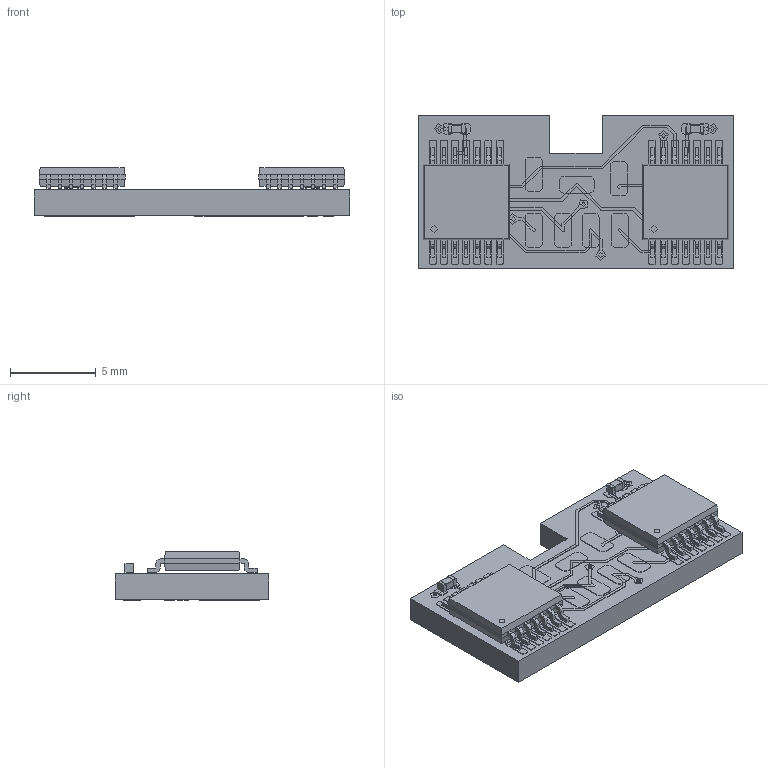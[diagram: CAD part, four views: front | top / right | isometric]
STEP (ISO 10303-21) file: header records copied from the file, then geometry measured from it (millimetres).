
FILE_DESCRIPTION(('KiCad electronic assembly'),'2;1');
FILE_NAME('board2.step','2026-06-25T11:59:37',('Pcbnew'),('Kicad'), 'Open CASCADE STEP processor 7.9','KiCad to STEP converter','Unknown' );
FILE_SCHEMA(('AUTOMOTIVE_DESIGN { 1 0 10303 214 1 1 1 1 }'));
Length unit declared in the file: millimetre
Products named in the file (15): board2 1; C_0402_1005Metric; AS5047P-ATSM; Array; Body001 (Mirror #1); Array001; Body001; Body; Body003; XY-plane; X-axis; Encoder_BoardV2_copper; Encoder_BoardV2_pad; Encoder_BoardV2_via; Encoder_BoardV2_PCB
Assembly tree (50 placements, depth 4):
  board2 1
    C_0402_1005Metric  x2
    AS5047P-ATSM  x2
      Array
        Body001 (Mirror #1)  x7
      Array001
        Body001  x7
      Body
      Body003
      XY-plane
      X-axis
    Encoder_BoardV2_copper
    Encoder_BoardV2_pad
    Encoder_BoardV2_via
    Encoder_BoardV2_PCB
Bounding box: 18.4 x 8.95 x 2.83 mm (x, y, z)
Volume: 290 mm3; surface area: 726.9 mm2
Topology: 114 solids, 114 shells, 1205 faces, 2921 edges, 1926 vertices
Faces by surface type: plane 860, cylinder 345
Full cylindrical faces by diameter (mm): 0.25 x13, 0.275 x26, 0.3 x13, 0.44 x4, 0.6 x7
Entity records: 25782 total; most frequent: DIRECTION 4364, CARTESIAN_POINT 4247, ORIENTED_EDGE 4022, EDGE_CURVE 2011, AXIS2_PLACEMENT_3D 1455, LINE 1454, VECTOR 1454, VERTEX_POINT 1338
